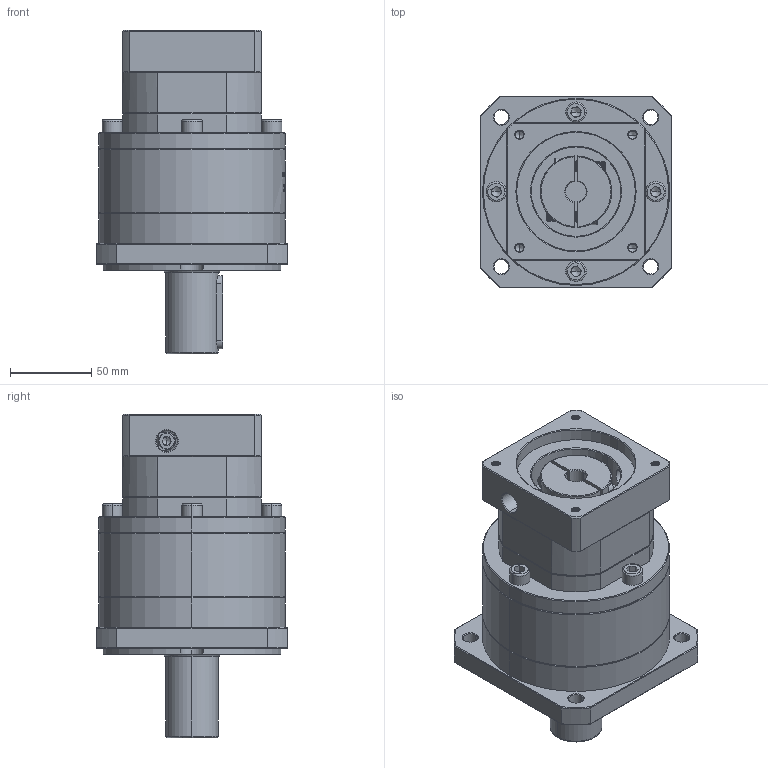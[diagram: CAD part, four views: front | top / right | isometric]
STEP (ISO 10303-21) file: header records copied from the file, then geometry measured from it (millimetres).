
FILE_DESCRIPTION (( 'STEP AP214' ), '1' );
FILE_NAME ('ZF120A-D32-L2-12.7-73-69.5X69.5-M6.step', '2023-03-07T15:01:26', ( '' ), ( 'Microsoft' ), 'SwSTEP 2.0', 'SolidWorks 2016', '' );
FILE_SCHEMA (( 'AUTOMOTIVE_DESIGN' ));
Length unit declared in the file: millimetre
Products named in the file (1): ZF120A-D32-L2-12.7-73-69.5X69.5-M6
Bounding box: 118 x 118 x 199 mm (x, y, z)
Volume: 1292160.5 mm3; surface area: 128270.2 mm2
Topology: 5 solids, 6 shells, 1934 faces, 5064 edges, 3222 vertices
Faces by surface type: plane 883, cylinder 402, bspline 321, cone 313, torus 15
Entity records: 105229 total; most frequent: CARTESIAN_POINT 40185, ORIENTED_EDGE 10068, DIRECTION 7768, EDGE_CURVE 5034, VERTEX_POINT 3222, LINE 2750, VECTOR 2750, AXIS2_PLACEMENT_3D 2509
